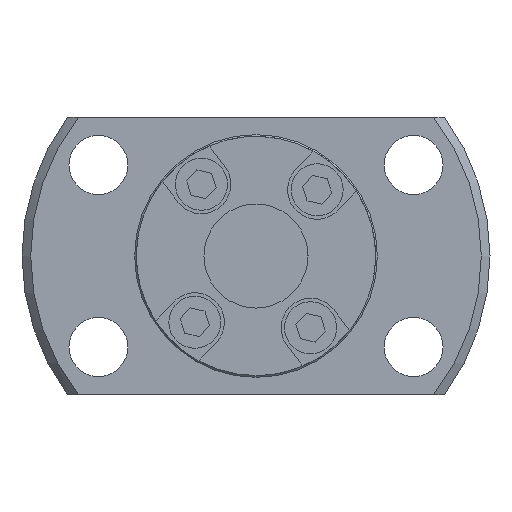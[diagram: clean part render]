
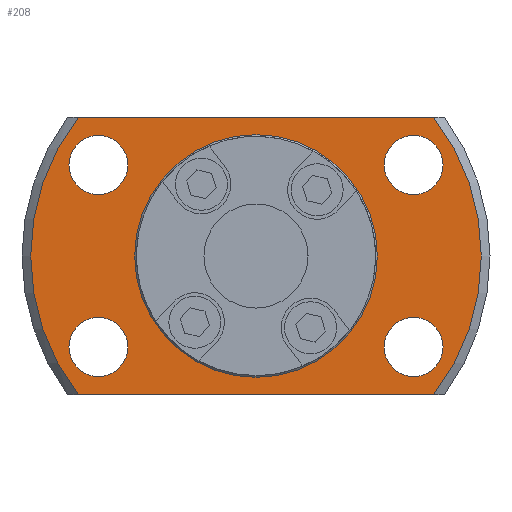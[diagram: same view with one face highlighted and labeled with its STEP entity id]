
A CAD part, left-side view. The second image highlights one B-rep face of the part: STEP entity #208.
In plain terms, the highlighted planar face has unit normal (-1, 0, 0).
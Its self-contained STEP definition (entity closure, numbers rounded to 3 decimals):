
#208 = ADVANCED_FACE( '', ( #450, #451, #452, #453, #454, #455 ), #456, .F. );
#450 = FACE_OUTER_BOUND( '', #750, .T. );
#451 = FACE_BOUND( '', #751, .T. );
#452 = FACE_BOUND( '', #752, .T. );
#453 = FACE_BOUND( '', #753, .T. );
#454 = FACE_BOUND( '', #754, .T. );
#455 = FACE_BOUND( '', #755, .T. );
#456 = PLANE( '', #756 );
#750 = EDGE_LOOP( '', ( #1173, #1174, #1175, #1176 ) );
#751 = EDGE_LOOP( '', ( #1177 ) );
#752 = EDGE_LOOP( '', ( #1178 ) );
#753 = EDGE_LOOP( '', ( #1179 ) );
#754 = EDGE_LOOP( '', ( #1180 ) );
#755 = EDGE_LOOP( '', ( #1181 ) );
#756 = AXIS2_PLACEMENT_3D( '', #1182, #1183, #1184 );
#1173 = ORIENTED_EDGE( '', *, *, #1722, .F. );
#1174 = ORIENTED_EDGE( '', *, *, #1667, .T. );
#1175 = ORIENTED_EDGE( '', *, *, #1745, .F. );
#1176 = ORIENTED_EDGE( '', *, *, #1746, .T. );
#1177 = ORIENTED_EDGE( '', *, *, #1701, .T. );
#1178 = ORIENTED_EDGE( '', *, *, #1719, .T. );
#1179 = ORIENTED_EDGE( '', *, *, #1747, .T. );
#1180 = ORIENTED_EDGE( '', *, *, #1737, .T. );
#1181 = ORIENTED_EDGE( '', *, *, #1687, .T. );
#1182 = CARTESIAN_POINT( '', ( 11.5, 6.8, 0. ) );
#1183 = DIRECTION( '', ( 1., 0., 0. ) );
#1184 = DIRECTION( '', ( 0., 0., -1. ) );
#1667 = EDGE_CURVE( '', #1951, #1960, #1962, .T. );
#1687 = EDGE_CURVE( '', #1995, #1995, #1996, .T. );
#1701 = EDGE_CURVE( '', #2018, #2018, #2019, .T. );
#1719 = EDGE_CURVE( '', #2048, #2048, #2049, .T. );
#1722 = EDGE_CURVE( '', #1951, #2053, #2054, .T. );
#1737 = EDGE_CURVE( '', #2077, #2077, #2078, .T. );
#1745 = EDGE_CURVE( '', #2089, #1960, #2090, .T. );
#1746 = EDGE_CURVE( '', #2089, #2053, #2091, .T. );
#1747 = EDGE_CURVE( '', #2092, #2092, #2093, .T. );
#1951 = VERTEX_POINT( '', #2371 );
#1960 = VERTEX_POINT( '', #2389 );
#1962 = LINE( '', #2394, #2395 );
#1995 = VERTEX_POINT( '', #2435 );
#1996 = CIRCLE( '', #2436, 6.8 );
#2018 = VERTEX_POINT( '', #2463 );
#2019 = CIRCLE( '', #2464, 1.7 );
#2048 = VERTEX_POINT( '', #2500 );
#2049 = CIRCLE( '', #2501, 1.7 );
#2053 = VERTEX_POINT( '', #2505 );
#2054 = CIRCLE( '', #2506, 13. );
#2077 = VERTEX_POINT( '', #2541 );
#2078 = CIRCLE( '', #2542, 1.7 );
#2089 = VERTEX_POINT( '', #2554 );
#2090 = CIRCLE( '', #2555, 13. );
#2091 = LINE( '', #2556, #2557 );
#2092 = VERTEX_POINT( '', #2558 );
#2093 = CIRCLE( '', #2559, 1.7 );
#2371 = CARTESIAN_POINT( '', ( 11.5, 10.247, -8. ) );
#2389 = CARTESIAN_POINT( '', ( 11.5, -10.247, -8. ) );
#2394 = CARTESIAN_POINT( '', ( 11.5, 6.8, -8. ) );
#2395 = VECTOR( '', #2820, 1000. );
#2435 = CARTESIAN_POINT( '', ( 11.5, 0., -6.8 ) );
#2436 = AXIS2_PLACEMENT_3D( '', #2849, #2850, #2851 );
#2463 = CARTESIAN_POINT( '', ( 11.5, -9.093, 3.55 ) );
#2464 = AXIS2_PLACEMENT_3D( '', #2869, #2870, #2871 );
#2500 = CARTESIAN_POINT( '', ( 11.5, -9.093, -6.95 ) );
#2501 = AXIS2_PLACEMENT_3D( '', #2897, #2898, #2899 );
#2505 = CARTESIAN_POINT( '', ( 11.5, 10.247, 8. ) );
#2506 = AXIS2_PLACEMENT_3D( '', #2903, #2904, #2905 );
#2541 = CARTESIAN_POINT( '', ( 11.5, 9.093, 3.55 ) );
#2542 = AXIS2_PLACEMENT_3D( '', #2918, #2919, #2920 );
#2554 = CARTESIAN_POINT( '', ( 11.5, -10.247, 8. ) );
#2555 = AXIS2_PLACEMENT_3D( '', #2931, #2932, #2933 );
#2556 = CARTESIAN_POINT( '', ( 11.5, 6.8, 8. ) );
#2557 = VECTOR( '', #2934, 1000. );
#2558 = CARTESIAN_POINT( '', ( 11.5, 9.093, -6.95 ) );
#2559 = AXIS2_PLACEMENT_3D( '', #2935, #2936, #2937 );
#2820 = DIRECTION( '', ( 0., -1., 0. ) );
#2849 = CARTESIAN_POINT( '', ( 11.5, 0., 0. ) );
#2850 = DIRECTION( '', ( 1., 0., 0. ) );
#2851 = DIRECTION( '', ( 0., 0., -1. ) );
#2869 = CARTESIAN_POINT( '', ( 11.5, -9.093, 5.25 ) );
#2870 = DIRECTION( '', ( 1., 0., 0. ) );
#2871 = DIRECTION( '', ( 0., 0., -1. ) );
#2897 = CARTESIAN_POINT( '', ( 11.5, -9.093, -5.25 ) );
#2898 = DIRECTION( '', ( 1., 0., 0. ) );
#2899 = DIRECTION( '', ( 0., 0., -1. ) );
#2903 = CARTESIAN_POINT( '', ( 11.5, 0., 0. ) );
#2904 = DIRECTION( '', ( 1., 0., 0. ) );
#2905 = DIRECTION( '', ( 0., 0., -1. ) );
#2918 = CARTESIAN_POINT( '', ( 11.5, 9.093, 5.25 ) );
#2919 = DIRECTION( '', ( 1., 0., 0. ) );
#2920 = DIRECTION( '', ( 0., 0., -1. ) );
#2931 = CARTESIAN_POINT( '', ( 11.5, 0., 0. ) );
#2932 = DIRECTION( '', ( 1., 0., 0. ) );
#2933 = DIRECTION( '', ( 0., 0., -1. ) );
#2934 = DIRECTION( '', ( 0., 1., 0. ) );
#2935 = CARTESIAN_POINT( '', ( 11.5, 9.093, -5.25 ) );
#2936 = DIRECTION( '', ( 1., 0., 0. ) );
#2937 = DIRECTION( '', ( 0., 0., -1. ) );
